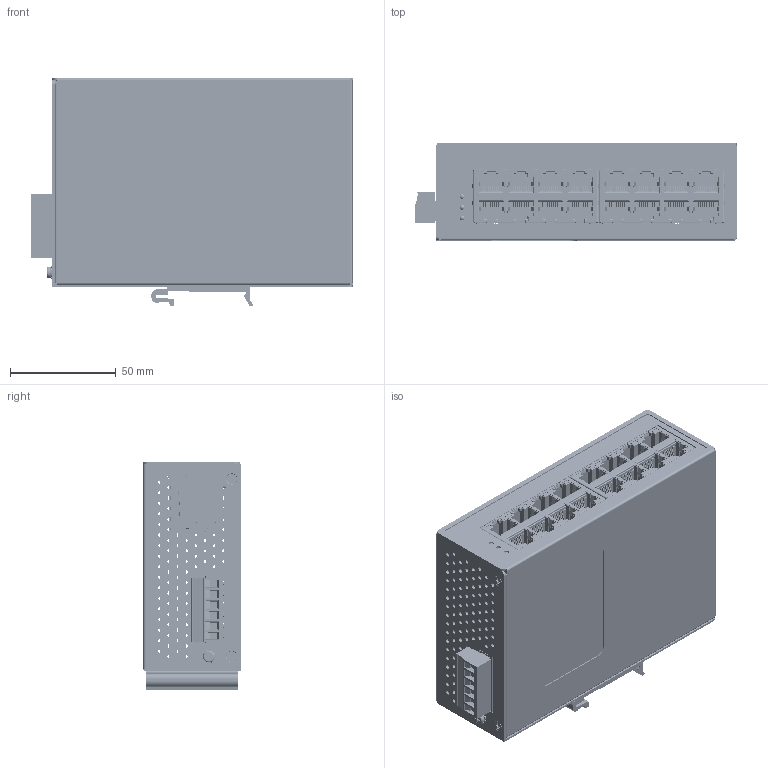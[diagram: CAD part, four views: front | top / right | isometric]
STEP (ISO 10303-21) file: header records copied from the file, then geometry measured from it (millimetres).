
FILE_DESCRIPTION((''),'2;1');
FILE_NAME('ET2-1600_ASM','2020-04-20T',('ASUS'),(''),'PRO/ENGINEER BY PARAMETRIC TECHNOLOGY CORPORATION, 2009440','PRO/ENGINEER BY PARAMETRIC TECHNOLOGY CORPORATION, 2009440','');
FILE_SCHEMA(('CONFIG_CONTROL_DESIGN'));
Products named in the file (43): PRT0001; PRT0002; PRT0003; PRT0004; PRT0005; ASM0003_ASM; PRT0006; ASM0006_ASM; ASM0005_ASM; PRT0007; PRT0008; PRT0009; PRT0010; PRT0011; PRT0012; PRT0013; PRT0014; PRT0015; PRT0016; PRT0017; PRT0018; PRT0019; PRT0020; ASM0010_ASM; ASM0009_ASM; PRT0021; PRT0022; PRT0023; PRT0024; PRT0025; PRT0026; PRT0027; ASM0008_ASM; ASM0007_ASM; ASM0004_ASM; PRT0028; SCREW_M3X4_F_1; PRT0029; PRT0030; PRT0031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
Assembly tree (77 placements, depth 8):
  ET2-1600_ASM
    ASM0002_ASM
      ASM0003_ASM
        PRT0001
        PRT0002  x4
        PRT0003
        PRT0004  x2
        PRT0005
      ASM0004_ASM
        ASM0005_ASM
          ASM0006_ASM
            PRT0006
        PRT0007
        ASM0007_ASM  x2
          ASM0008_ASM
            PRT0008
            PRT0009
            PRT0010
            PRT0011
            ASM0009_ASM  x4
              PRT0012
              ASM0010_ASM
                PRT0013
                PRT0014
                PRT0015
                PRT0016
                PRT0017
                PRT0018
                PRT0019
                PRT0020
            PRT0021  x4
            PRT0022  x4
            PRT0023  x4
            PRT0024  x4
            PRT0025
            PRT0026  x5
            PRT0027  x3
      PRT0028
      SCREW_M3X4_F_1  x10
      PRT0029
      PRT0030
      PRT0031
      PRT0032
Bounding box: 151.91 x 46 x 107.8 mm (x, y, z)
Volume: 115848.2 mm3; surface area: 252415.9 mm2
Topology: 156 solids, 156 shells, 24062 faces, 68082 edges, 43766 vertices
Faces by surface type: plane 19343, cylinder 4243, torus 172, cone 134, bspline 134, sphere 36
Entity records: 270779 total; most frequent: CARTESIAN_POINT 55510, ORIENTED_EDGE 45696, DIRECTION 43256, EDGE_CURVE 22848, VECTOR 17892, LINE 17892, VERTEX_POINT 14577, AXIS2_PLACEMENT_3D 12682
